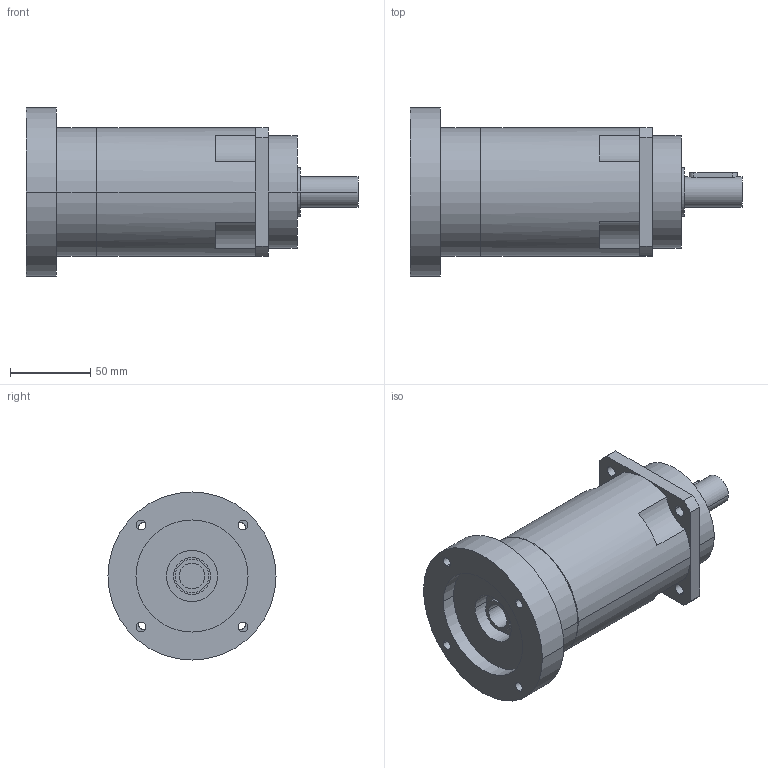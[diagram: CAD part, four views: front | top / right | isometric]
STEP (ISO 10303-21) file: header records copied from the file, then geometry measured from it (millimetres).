
FILE_DESCRIPTION(('CoCreate Modeling STEP Export'),'2;1');
FILE_NAME('GPR100_ig-48-64-80-100-120-144-180-216_19_B5_15.87_P14.stp','2014-08-26T11:55:41',(''),(''),'CoCreate Modeling STEP processor for AP214 (Solid Model)','CoCreate Modeling 16.00C 25-Feb-2009 (C) Parametric Technology GmbH','');
FILE_SCHEMA(('AUTOMOTIVE_DESIGN { 1 0 10303 214 1 1 1 1 }'));
Length unit declared in the file: millimetre
Products named in the file (2): GPR100_ig-48-64-80-100-120-144-180-216_19_B5_15.87_P14
Assembly tree (1 placements, depth 2):
  GPR100_ig-48-64-80-100-120-144-180-216_19_B5_15.87_P14
    GPR100_ig-48-64-80-100-120-144-180-216_19_B5_15.87_P14
Bounding box: 207.4 x 105 x 105 mm (x, y, z)
Volume: 861155.6 mm3; surface area: 74579.7 mm2
Topology: 1 solids, 1 shells, 95 faces, 260 edges, 180 vertices
Faces by surface type: cylinder 58, plane 31, cone 6
Entity records: 2690 total; most frequent: ORIENTED_EDGE 516, CARTESIAN_POINT 482, DIRECTION 386, EDGE_CURVE 258, VERTEX_POINT 180, AXIS2_PLACEMENT_3D 148, EDGE_LOOP 126, FACE_OUTER_BOUND 95
